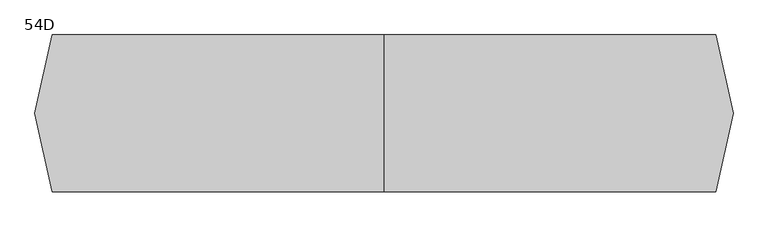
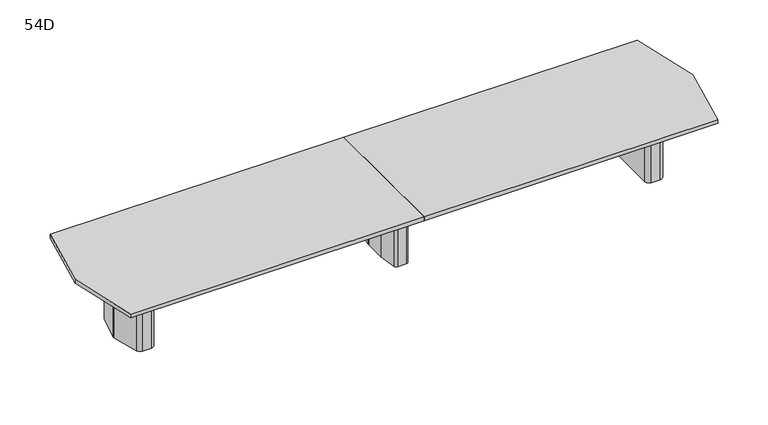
"""IFC4 building model written with IfcOpenShell, lengths in millimetres: furniture geometry, Coalesse_AM_Table_Conference_ETable2_Faceted_20ft_ThreeBase : 54D."""

from ifc_helpers import new_model, si_unit, frame, origin, place, context, project, spatial, polyline, circle_curve, outline, extrude, source, transform, mapped, element, save
from ifc_brep_helpers import plane_surface, cylinder_surface, revolved_surface, advanced_brep


def furniture_54d_db408c70(model_context):
    return source(origin(), model_context, "Body", "SolidModel", [
        advanced_brep(
        [(35.71875, 206.375, 3.175), (10.31875, 231.775, 3.175), (-10.31875, 231.775, 3.175), (-35.71875, 206.375, 3.175), (-35.71875, -206.375, 3.175), (-10.31875, -231.775, 3.175), (10.31875, -231.775, 3.175), (35.71875, -206.375, 3.175), (-61.11875, 206.375, 0.0), (-10.31875, 257.175, 0.0), (10.31875, 257.175, 0.0), (61.11875, 206.375, 0.0), (61.11875, -206.375, 0.0), (10.31875, -257.175, 0.0), (-10.31875, -257.175, 0.0), (-61.11875, -206.375, 0.0), (-61.11875, -206.375, 3.175), (-61.11875, 206.375, 3.175), (-10.31875, -257.175, 3.175), (10.31875, -257.175, 3.175), (61.11875, -206.375, 3.175), (61.11875, 206.375, 3.175), (10.31875, 257.175, 3.175), (-10.31875, 257.175, 3.175), (-92.6215974, 106.2976848, 698.5), (-92.86875, 102.7629613, 698.5), (-92.86875, -102.7629613, 698.5), (-92.6215974, -106.2976848, 698.5), (-67.7988375, -282.9347235, 698.5), (-42.6459902, -304.8, 698.5), (42.6459902, -304.8, 698.5), (67.7988375, -282.9347235, 698.5), (92.6215974, -106.2976848, 698.5), (92.86875, -102.7629613, 698.5), (92.86875, 102.7629613, 698.5), (92.6215974, 106.2976848, 698.5), (67.7988375, 282.9347235, 698.5), (42.6459902, 304.8, 698.5), (-42.6459902, 304.8, 698.5), (-67.7988375, 282.9347235, 698.5), (10.31875, 231.775, 698.5), (35.71875, 206.375, 698.5), (35.71875, -206.375, 698.5), (10.31875, -231.775, 698.5), (-10.31875, -231.775, 698.5), (-35.71875, -206.375, 698.5), (-35.71875, 206.375, 698.5), (-10.31875, 231.775, 698.5), (-92.6215974, 106.2976848, 3.175), (-67.7988375, 282.9347235, 3.175), (-42.6459902, 304.8, 3.175), (42.6459902, 304.8, 3.175), (67.7988375, 282.9347235, 3.175), (92.6215974, 106.2976848, 3.175), (92.86875, 102.7629613, 3.175), (92.86875, -102.7629613, 3.175), (92.6215974, -106.2976848, 3.175), (67.7988375, -282.9347235, 3.175), (42.6459902, -304.8, 3.175), (-42.6459902, -304.8, 3.175), (-67.7988375, -282.9347235, 3.175), (-92.6215974, -106.2976848, 3.175), (-92.86875, -102.7629613, 3.175), (-92.86875, 102.7629613, 3.175)],
        [
            (0, 1, circle_curve(frame((10.31875, 206.375, 3.175), z_axis=(0.0, 0.0, 1.0), x_axis=(1.0, 0.0, 0.0)), 25.4)),
            (1, 2),
            (2, 3, circle_curve(frame((-10.31875, 206.375, 3.175), z_axis=(0.0, 0.0, 1.0), x_axis=(1.0, 0.0, 0.0)), 25.4)),
            (3, 4),
            (4, 5, circle_curve(frame((-10.31875, -206.375, 3.175), z_axis=(0.0, 0.0, 1.0), x_axis=(1.0, 0.0, 0.0)), 25.4)),
            (5, 6),
            (6, 7, circle_curve(frame((10.31875, -206.375, 3.175), z_axis=(0.0, 0.0, 1.0), x_axis=(1.0, 0.0, 0.0)), 25.4)),
            (7, 0),
            (8, 9, circle_curve(frame((-10.31875, 206.375, 0.0), z_axis=(0.0, 0.0, -1.0), x_axis=(1.0, 0.0, 0.0)), 50.8)),
            (9, 10),
            (10, 11, circle_curve(frame((10.31875, 206.375, 0.0), z_axis=(0.0, 0.0, -1.0), x_axis=(1.0, 0.0, 0.0)), 50.8)),
            (11, 12),
            (12, 13, circle_curve(frame((10.31875, -206.375, 0.0), z_axis=(0.0, 0.0, -1.0), x_axis=(1.0, 0.0, 0.0)), 50.8)),
            (13, 14),
            (14, 15, circle_curve(frame((-10.31875, -206.375, 0.0), z_axis=(0.0, 0.0, -1.0), x_axis=(1.0, 0.0, 0.0)), 50.8)),
            (15, 8),
            (15, 16),
            (16, 17),
            (17, 8),
            (14, 18),
            (18, 16, circle_curve(frame((-10.31875, -206.375, 3.175), z_axis=(0.0, 0.0, -1.0), x_axis=(1.0, 0.0, 0.0)), 50.8)),
            (13, 19),
            (19, 18),
            (12, 20),
            (20, 19, circle_curve(frame((10.31875, -206.375, 3.175), z_axis=(0.0, 0.0, -1.0), x_axis=(1.0, 0.0, 0.0)), 50.8)),
            (11, 21),
            (21, 20),
            (10, 22),
            (22, 21, circle_curve(frame((10.31875, 206.375, 3.175), z_axis=(0.0, 0.0, -1.0), x_axis=(1.0, 0.0, 0.0)), 50.8)),
            (9, 23),
            (23, 22),
            (17, 23, circle_curve(frame((-10.31875, 206.375, 3.175), z_axis=(0.0, 0.0, -1.0), x_axis=(1.0, 0.0, 0.0)), 50.8)),
            (24, 25, circle_curve(frame((-67.46875, 102.7629613, 698.5), z_axis=(0.0, 0.0, 1.0), x_axis=(1.0, 0.0, 0.0)), 25.4)),
            (25, 26),
            (26, 27, circle_curve(frame((-67.46875, -102.7629613, 698.5), z_axis=(0.0, 0.0, 1.0), x_axis=(1.0, 0.0, 0.0)), 25.4)),
            (27, 28),
            (28, 29, circle_curve(frame((-42.6459902, -279.4, 698.5), z_axis=(0.0, 0.0, 1.0), x_axis=(1.0, 0.0, 0.0)), 25.4)),
            (29, 30),
            (30, 31, circle_curve(frame((42.6459902, -279.4, 698.5), z_axis=(0.0, 0.0, 1.0), x_axis=(1.0, 0.0, 0.0)), 25.4)),
            (31, 32),
            (32, 33, circle_curve(frame((67.46875, -102.7629613, 698.5), z_axis=(0.0, 0.0, 1.0), x_axis=(1.0, 0.0, 0.0)), 25.4)),
            (33, 34),
            (34, 35, circle_curve(frame((67.46875, 102.7629613, 698.5), z_axis=(0.0, 0.0, 1.0), x_axis=(1.0, 0.0, 0.0)), 25.4)),
            (35, 36),
            (36, 37, circle_curve(frame((42.6459902, 279.4, 698.5), z_axis=(0.0, 0.0, 1.0), x_axis=(1.0, 0.0, 0.0)), 25.4)),
            (37, 38),
            (38, 39, circle_curve(frame((-42.6459902, 279.4, 698.5), z_axis=(0.0, 0.0, 1.0), x_axis=(1.0, 0.0, 0.0)), 25.4)),
            (39, 24),
            (40, 41, circle_curve(frame((10.31875, 206.375, 698.5), z_axis=(0.0, 0.0, -1.0), x_axis=(1.0, 0.0, 0.0)), 25.4)),
            (41, 42),
            (42, 43, circle_curve(frame((10.31875, -206.375, 698.5), z_axis=(0.0, 0.0, -1.0), x_axis=(1.0, 0.0, 0.0)), 25.4)),
            (43, 44),
            (44, 45, circle_curve(frame((-10.31875, -206.375, 698.5), z_axis=(0.0, 0.0, -1.0), x_axis=(1.0, 0.0, 0.0)), 25.4)),
            (45, 46),
            (46, 47, circle_curve(frame((-10.31875, 206.375, 698.5), z_axis=(0.0, 0.0, -1.0), x_axis=(1.0, 0.0, 0.0)), 25.4)),
            (47, 40),
            (48, 49),
            (49, 50, circle_curve(frame((-42.6459902, 279.4, 3.175), z_axis=(0.0, 0.0, -1.0), x_axis=(1.0, 0.0, 0.0)), 25.4)),
            (50, 51),
            (51, 52, circle_curve(frame((42.6459902, 279.4, 3.175), z_axis=(0.0, 0.0, -1.0), x_axis=(1.0, 0.0, 0.0)), 25.4)),
            (52, 53),
            (53, 54, circle_curve(frame((67.46875, 102.7629613, 3.175), z_axis=(0.0, 0.0, -1.0), x_axis=(1.0, 0.0, 0.0)), 25.4)),
            (54, 55),
            (55, 56, circle_curve(frame((67.46875, -102.7629613, 3.175), z_axis=(0.0, 0.0, -1.0), x_axis=(1.0, 0.0, 0.0)), 25.4)),
            (56, 57),
            (57, 58, circle_curve(frame((42.6459902, -279.4, 3.175), z_axis=(0.0, 0.0, -1.0), x_axis=(1.0, 0.0, 0.0)), 25.4)),
            (58, 59),
            (59, 60, circle_curve(frame((-42.6459902, -279.4, 3.175), z_axis=(0.0, 0.0, -1.0), x_axis=(1.0, 0.0, 0.0)), 25.4)),
            (60, 61),
            (61, 62, circle_curve(frame((-67.46875, -102.7629613, 3.175), z_axis=(0.0, 0.0, -1.0), x_axis=(1.0, 0.0, 0.0)), 25.4)),
            (62, 63),
            (63, 48, circle_curve(frame((-67.46875, 102.7629613, 3.175), z_axis=(0.0, 0.0, -1.0), x_axis=(1.0, 0.0, 0.0)), 25.4)),
            (24, 48),
            (63, 25),
            (62, 26),
            (61, 27),
            (60, 28),
            (59, 29),
            (58, 30),
            (57, 31),
            (56, 32),
            (55, 33),
            (54, 34),
            (53, 35),
            (52, 36),
            (51, 37),
            (50, 38),
            (49, 39),
            (40, 1),
            (0, 41),
            (7, 42),
            (6, 43),
            (5, 44),
            (4, 45),
            (3, 46),
            (2, 47),
        ],
        [
            plane_surface(frame((-61.11875, -206.375, 3.175), z_axis=(0.0, 0.0, 1.0), x_axis=(0.0, -1.0, 0.0))),
            plane_surface(frame((-61.11875, -206.375, 0.0), z_axis=(0.0, 0.0, -1.0), x_axis=(0.0, 1.0, 0.0))),
            plane_surface(frame((-61.11875, 206.375, 3.175), z_axis=(-1.0, 0.0, 0.0), x_axis=(0.0, 0.0, -1.0))),
            cylinder_surface(frame((-10.31875, -206.375, 0.0), z_axis=(0.0, 0.0, 1.0), x_axis=(1.0, 0.0, 0.0)), 50.8),
            plane_surface(frame((-10.31875, -257.175, 3.175), z_axis=(0.0, -1.0, 0.0), x_axis=(0.0, 0.0, -1.0))),
            cylinder_surface(frame((10.31875, -206.375, 0.0), z_axis=(0.0, 0.0, 1.0), x_axis=(1.0, 0.0, 0.0)), 50.8),
            plane_surface(frame((61.11875, -206.375, 3.175), z_axis=(1.0, 0.0, 0.0), x_axis=(0.0, 0.0, -1.0))),
            cylinder_surface(frame((10.31875, 206.375, 0.0), z_axis=(0.0, 0.0, 1.0), x_axis=(1.0, 0.0, 0.0)), 50.8),
            plane_surface(frame((10.31875, 257.175, 3.175), z_axis=(0.0, 1.0, 0.0), x_axis=(0.0, 0.0, -1.0))),
            cylinder_surface(frame((-10.31875, 206.375, 0.0), z_axis=(0.0, 0.0, 1.0), x_axis=(1.0, 0.0, 0.0)), 50.8),
            plane_surface(frame((-42.06875, 102.7629613, 698.5), z_axis=(0.0, 0.0, 1.0), x_axis=(0.0, 1.0, 0.0))),
            plane_surface(frame((-42.06875, 102.7629613, 3.175), z_axis=(0.0, 0.0, -1.0), x_axis=(0.0, -1.0, 0.0))),
            cylinder_surface(frame((-67.46875, 102.7629613, 3.175), z_axis=(0.0, 0.0, 1.0), x_axis=(1.0, 0.0, 0.0)), 25.4),
            plane_surface(frame((-92.86875, 102.7629613, 698.5), z_axis=(-1.0, 0.0, 0.0), x_axis=(0.0, 0.0, -1.0))),
            cylinder_surface(frame((-67.46875, -102.7629613, 3.175), z_axis=(0.0, 0.0, 1.0), x_axis=(1.0, 0.0, 0.0)), 25.4),
            plane_surface(frame((-92.6215974, -106.2976848, 698.5), z_axis=(-0.9902695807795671, -0.13916234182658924, 0.0), x_axis=(0.0, 0.0, -1.0))),
            cylinder_surface(frame((-42.6459902, -279.4, 3.175), z_axis=(0.0, 0.0, 1.0), x_axis=(1.0, 0.0, 0.0)), 25.4),
            plane_surface(frame((-42.6459902, -304.8, 698.5), z_axis=(0.0, -1.0, 0.0), x_axis=(0.0, 0.0, -1.0))),
            cylinder_surface(frame((42.6459902, -279.4, 3.175), z_axis=(0.0, 0.0, 1.0), x_axis=(1.0, 0.0, 0.0)), 25.4),
            plane_surface(frame((67.7988375, -282.9347235, 698.5), z_axis=(0.9902695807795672, -0.13916234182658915, 0.0), x_axis=(0.0, 0.0, -1.0))),
            cylinder_surface(frame((67.46875, -102.7629613, 3.175), z_axis=(0.0, 0.0, 1.0), x_axis=(1.0, 0.0, 0.0)), 25.4),
            plane_surface(frame((92.86875, -102.7629613, 698.5), z_axis=(1.0, 0.0, 0.0), x_axis=(0.0, 0.0, -1.0))),
            cylinder_surface(frame((67.46875, 102.7629613, 3.175), z_axis=(0.0, 0.0, 1.0), x_axis=(1.0, 0.0, 0.0)), 25.4),
            plane_surface(frame((92.6215974, 106.2976848, 698.5), z_axis=(0.9902695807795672, 0.1391623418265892, 0.0), x_axis=(0.0, 0.0, -1.0))),
            cylinder_surface(frame((42.6459902, 279.4, 3.175), z_axis=(0.0, 0.0, 1.0), x_axis=(1.0, 0.0, 0.0)), 25.4),
            plane_surface(frame((42.6459902, 304.8, 698.5), z_axis=(0.0, 1.0, 0.0), x_axis=(0.0, 0.0, -1.0))),
            cylinder_surface(frame((-42.6459902, 279.4, 3.175), z_axis=(0.0, 0.0, 1.0), x_axis=(1.0, 0.0, 0.0)), 25.4),
            plane_surface(frame((-67.7988375, 282.9347235, 698.5), z_axis=(-0.9902695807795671, 0.13916234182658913, 0.0), x_axis=(0.0, 0.0, -1.0))),
            revolved_surface(polyline([(35.71875, 206.375, 3.175), (35.71875, 206.375, 698.5)]), (10.31875, 206.375, 0.0), (0.0, 0.0, -1.0)),
            plane_surface(frame((35.71875, 206.375, 698.5), z_axis=(-1.0, 0.0, 0.0), x_axis=(0.0, 0.0, -1.0))),
            revolved_surface(polyline([(35.71875, -206.375, 3.175), (35.71875, -206.375, 698.5)]), (10.31875, -206.375, 0.0), (0.0, 0.0, -1.0)),
            plane_surface(frame((10.31875, -231.775, 698.5), z_axis=(0.0, 1.0, 0.0), x_axis=(0.0, 0.0, -1.0))),
            revolved_surface(polyline([(15.081249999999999, -206.375, 3.175), (15.081249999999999, -206.375, 698.5)]), (-10.31875, -206.375, 0.0), (0.0, 0.0, -1.0)),
            plane_surface(frame((-35.71875, -206.375, 698.5), z_axis=(1.0, 0.0, 0.0), x_axis=(0.0, 0.0, -1.0))),
            revolved_surface(polyline([(15.081249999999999, 206.375, 3.175), (15.081249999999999, 206.375, 698.5)]), (-10.31875, 206.375, 0.0), (0.0, 0.0, -1.0)),
            plane_surface(frame((-10.31875, 231.775, 698.5), z_axis=(0.0, -1.0, 0.0), x_axis=(0.0, 0.0, -1.0))),
        ],
        [
            (0, [[1, 2, 3, 4, 5, 6, 7, 8]]),
            (1, [[9, 10, 11, 12, 13, 14, 15, 16]]),
            (2, [[-16, 17, 18, 19]]),
            (3, [[-15, 20, 21, -17]]),
            (4, [[-14, 22, 23, -20]]),
            (5, [[-13, 24, 25, -22]]),
            (6, [[-12, 26, 27, -24]]),
            (7, [[-11, 28, 29, -26]]),
            (8, [[-10, 30, 31, -28]]),
            (9, [[-9, -19, 32, -30]]),
            (10, [[33, 34, 35, 36, 37, 38, 39, 40, 41, 42, 43, 44, 45, 46, 47, 48], [49, 50, 51, 52, 53, 54, 55, 56]]),
            (11, [[57, 58, 59, 60, 61, 62, 63, 64, 65, 66, 67, 68, 69, 70, 71, 72], [-18, -21, -23, -25, -27, -29, -31, -32]]),
            (12, [[-33, 73, -72, 74]]),
            (13, [[-34, -74, -71, 75]]),
            (14, [[-35, -75, -70, 76]]),
            (15, [[-36, -76, -69, 77]]),
            (16, [[-37, -77, -68, 78]]),
            (17, [[-38, -78, -67, 79]]),
            (18, [[-39, -79, -66, 80]]),
            (19, [[-40, -80, -65, 81]]),
            (20, [[-41, -81, -64, 82]]),
            (21, [[-42, -82, -63, 83]]),
            (22, [[-43, -83, -62, 84]]),
            (23, [[-44, -84, -61, 85]]),
            (24, [[-45, -85, -60, 86]]),
            (25, [[-46, -86, -59, 87]]),
            (26, [[-47, -87, -58, 88]]),
            (27, [[-48, -88, -57, -73]]),
            (28, [[-49, 89, -1, 90]]),
            (29, [[-50, -90, -8, 91]]),
            (30, [[-51, -91, -7, 92]]),
            (31, [[-52, -92, -6, 93]]),
            (32, [[-53, -93, -5, 94]]),
            (33, [[-54, -94, -4, 95]]),
            (34, [[-55, -95, -3, 96]]),
            (35, [[-56, -96, -2, -89]]),
        ],
    ),
        advanced_brep(
        [(2589.424548, 274.2093613, 698.5), (2549.5579246, 304.8, 698.5), (2460.625, 304.8, 698.5), (2419.35, 263.525, 698.5), (2419.35, -263.525, 698.5), (2460.625, -304.8, 698.5), (2549.5579246, -304.8, 698.5), (2589.424548, -274.2093613, 698.5), (2660.0503901, -10.6333708, 698.5), (2660.0503901, 10.6333708, 698.5), (2457.45, -206.375, 698.5), (2457.45, 206.375, 698.5), (2482.85, 231.775, 698.5), (2541.8608422, 231.775, 698.5), (2566.395338, 212.9490792, 698.5), (2605.0875, 68.54974, 698.5), (2605.0875, -68.54974, 698.5), (2566.395338, -212.9490792, 698.5), (2541.8608422, -231.775, 698.5), (2482.85, -231.775, 698.5), (2589.424548, 274.2093613, 3.175), (2660.0503901, 10.6333708, 3.175), (2660.0503901, -10.6333708, 3.175), (2589.424548, -274.2093613, 3.175), (2549.5579246, -304.8, 3.175), (2460.625, -304.8, 3.175), (2419.35, -263.525, 3.175), (2419.35, 263.525, 3.175), (2460.625, 304.8, 3.175), (2549.5579246, 304.8, 3.175), (2578.6625859, 216.2361187, 3.175), (2541.8608422, 244.475, 3.175), (2482.85, 244.475, 3.175), (2444.75, 206.375, 3.175), (2444.75, -206.375, 3.175), (2482.85, -244.475, 3.175), (2541.8608422, -244.475, 3.175), (2578.6625859, -216.2361187, 3.175), (2617.7875, -70.2217466, 3.175), (2617.7875, 70.2217466, 3.175), (2482.85, -231.775, 3.175), (2457.45, -206.375, 3.175), (2541.8608422, -231.775, 3.175), (2566.395338, -212.9490792, 3.175), (2605.0875, -68.54974, 3.175), (2605.0875, 68.54974, 3.175), (2566.395338, 212.9490792, 3.175), (2541.8608422, 231.775, 3.175), (2482.85, 231.775, 3.175), (2457.45, 206.375, 3.175), (2578.6625859, 216.2361187, 0.0), (2617.7875, 70.2217466, 0.0), (2617.7875, -70.2217466, 0.0), (2578.6625859, -216.2361187, 0.0), (2541.8608422, -244.475, 0.0), (2482.85, -244.475, 0.0), (2444.75, -206.375, 0.0), (2444.75, 206.375, 0.0), (2482.85, 244.475, 0.0), (2541.8608422, 244.475, 0.0)],
        [
            (0, 1, circle_curve(frame((2549.5579246, 263.5270004, 698.5), z_axis=(0.0, 0.0, 1.0), x_axis=(-1.0, 0.0, 0.0)), 41.2729996)),
            (1, 2),
            (2, 3, circle_curve(frame((2460.625, 263.525, 698.5), z_axis=(0.0, 0.0, 1.0), x_axis=(-1.0, 0.0, 0.0)), 41.275)),
            (3, 4),
            (4, 5, circle_curve(frame((2460.625, -263.525, 698.5), z_axis=(0.0, 0.0, 1.0), x_axis=(-1.0, 0.0, 0.0)), 41.275)),
            (5, 6),
            (6, 7, circle_curve(frame((2549.5579246, -263.5270004, 698.5), z_axis=(0.0, 0.0, 1.0), x_axis=(-1.0, 0.0, 0.0)), 41.2729996)),
            (7, 8),
            (8, 9, circle_curve(frame((2620.3665979, 0.0, 698.5), z_axis=(0.0, 0.0, 1.0), x_axis=(-1.0, 0.0, 0.0)), 41.0837187)),
            (9, 0),
            (10, 11),
            (11, 12, circle_curve(frame((2482.85, 206.375, 698.5), z_axis=(0.0, 0.0, -1.0), x_axis=(-1.0, 0.0, 0.0)), 25.4)),
            (12, 13),
            (13, 14, circle_curve(frame((2541.8608422, 206.375, 698.5), z_axis=(0.0, 0.0, -1.0), x_axis=(-1.0, 0.0, 0.0)), 25.4)),
            (14, 15),
            (15, 16),
            (16, 17),
            (17, 18, circle_curve(frame((2541.8608422, -206.375, 698.5), z_axis=(0.0, 0.0, -1.0), x_axis=(-1.0, 0.0, 0.0)), 25.4)),
            (18, 19),
            (19, 10, circle_curve(frame((2482.85, -206.375, 698.5), z_axis=(0.0, 0.0, -1.0), x_axis=(-1.0, 0.0, 0.0)), 25.4)),
            (20, 21),
            (21, 22, circle_curve(frame((2620.3665979, 0.0, 3.175), z_axis=(0.0, 0.0, -1.0), x_axis=(-1.0, 0.0, 0.0)), 41.0837187)),
            (22, 23),
            (23, 24, circle_curve(frame((2549.5579246, -263.5270004, 3.175), z_axis=(0.0, 0.0, -1.0), x_axis=(-1.0, 0.0, 0.0)), 41.2729996)),
            (24, 25),
            (25, 26, circle_curve(frame((2460.625, -263.525, 3.175), z_axis=(0.0, 0.0, -1.0), x_axis=(-1.0, 0.0, 0.0)), 41.275)),
            (26, 27),
            (27, 28, circle_curve(frame((2460.625, 263.525, 3.175), z_axis=(0.0, 0.0, -1.0), x_axis=(-1.0, 0.0, 0.0)), 41.275)),
            (28, 29),
            (29, 20, circle_curve(frame((2549.5579246, 263.5270004, 3.175), z_axis=(0.0, 0.0, -1.0), x_axis=(-1.0, 0.0, 0.0)), 41.2729996)),
            (30, 31, circle_curve(frame((2541.8608422, 206.375, 3.175), z_axis=(0.0, 0.0, 1.0), x_axis=(-1.0, 0.0, 0.0)), 38.1)),
            (31, 32),
            (32, 33, circle_curve(frame((2482.85, 206.375, 3.175), z_axis=(0.0, 0.0, 1.0), x_axis=(-1.0, 0.0, 0.0)), 38.1)),
            (33, 34),
            (34, 35, circle_curve(frame((2482.85, -206.375, 3.175), z_axis=(0.0, 0.0, 1.0), x_axis=(-1.0, 0.0, 0.0)), 38.1)),
            (35, 36),
            (36, 37, circle_curve(frame((2541.8608422, -206.375, 3.175), z_axis=(0.0, 0.0, 1.0), x_axis=(-1.0, 0.0, 0.0)), 38.1)),
            (37, 38),
            (38, 39),
            (39, 30),
            (9, 21),
            (20, 0),
            (8, 22),
            (7, 23),
            (6, 24),
            (5, 25),
            (4, 26),
            (3, 27),
            (2, 28),
            (1, 29),
            (19, 40),
            (40, 41, circle_curve(frame((2482.85, -206.375, 3.175), z_axis=(0.0, 0.0, -1.0), x_axis=(-1.0, 0.0, 0.0)), 25.4)),
            (41, 10),
            (18, 42),
            (42, 40),
            (17, 43),
            (43, 42, circle_curve(frame((2541.8608422, -206.375, 3.175), z_axis=(0.0, 0.0, -1.0), x_axis=(-1.0, 0.0, 0.0)), 25.4)),
            (16, 44),
            (44, 43),
            (15, 45),
            (45, 44),
            (14, 46),
            (46, 45),
            (13, 47),
            (47, 46, circle_curve(frame((2541.8608422, 206.375, 3.175), z_axis=(0.0, 0.0, -1.0), x_axis=(-1.0, 0.0, 0.0)), 25.4)),
            (12, 48),
            (48, 47),
            (11, 49),
            (49, 48, circle_curve(frame((2482.85, 206.375, 3.175), z_axis=(0.0, 0.0, -1.0), x_axis=(-1.0, 0.0, 0.0)), 25.4)),
            (41, 49),
            (50, 51),
            (51, 52),
            (52, 53),
            (53, 54, circle_curve(frame((2541.8608422, -206.375, 0.0), z_axis=(0.0, 0.0, -1.0), x_axis=(-1.0, 0.0, 0.0)), 38.1)),
            (54, 55),
            (55, 56, circle_curve(frame((2482.85, -206.375, 0.0), z_axis=(0.0, 0.0, -1.0), x_axis=(-1.0, 0.0, 0.0)), 38.1)),
            (56, 57),
            (57, 58, circle_curve(frame((2482.85, 206.375, 0.0), z_axis=(0.0, 0.0, -1.0), x_axis=(-1.0, 0.0, 0.0)), 38.1)),
            (58, 59),
            (59, 50, circle_curve(frame((2541.8608422, 206.375, 0.0), z_axis=(0.0, 0.0, -1.0), x_axis=(-1.0, 0.0, 0.0)), 38.1)),
            (50, 30),
            (39, 51),
            (38, 52),
            (37, 53),
            (36, 54),
            (35, 55),
            (34, 56),
            (33, 57),
            (32, 58),
            (31, 59),
        ],
        [
            plane_surface(frame((2660.0374275, 10.6817473, 698.5), z_axis=(0.0, 0.0, 1.0000000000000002), x_axis=(0.25882201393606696, -0.9659250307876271, 0.0))),
            plane_surface(frame((2660.0374275, 10.6817473, 3.175), z_axis=(0.0, 0.0, -1.0000000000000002), x_axis=(-0.25882201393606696, 0.9659250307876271, 0.0))),
            plane_surface(frame((2589.424548, 274.2093613, 698.5), z_axis=(0.9659250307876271, 0.25882201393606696, 0.0), x_axis=(0.0, 0.0, -1.0))),
            cylinder_surface(frame((2620.3665979, 0.0, 3.175), z_axis=(0.0, 0.0, 1.0), x_axis=(-1.0, 0.0, 0.0)), 41.0837187),
            plane_surface(frame((2660.0503901, -10.6333708, 698.5), z_axis=(0.9659250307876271, -0.2588220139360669, 0.0), x_axis=(0.0, 0.0, -1.0))),
            cylinder_surface(frame((2549.5579246, -263.5270004, 3.175), z_axis=(0.0, 0.0, 1.0), x_axis=(-1.0, 0.0, 0.0)), 41.2729996),
            plane_surface(frame((2549.5579246, -304.8, 698.5), z_axis=(0.0, -1.0, 0.0), x_axis=(0.0, 0.0, -1.0))),
            cylinder_surface(frame((2460.625, -263.525, 3.175), z_axis=(0.0, 0.0, 1.0), x_axis=(-1.0, 0.0, 0.0)), 41.275),
            plane_surface(frame((2419.35, -263.525, 698.5), z_axis=(-1.0, 0.0, 0.0), x_axis=(0.0, 0.0, -1.0))),
            cylinder_surface(frame((2460.625, 263.525, 3.175), z_axis=(0.0, 0.0, 1.0), x_axis=(-1.0, 0.0, 0.0)), 41.275),
            plane_surface(frame((2460.625, 304.8, 698.5), z_axis=(0.0, 1.0, 0.0), x_axis=(0.0, 0.0, -1.0))),
            cylinder_surface(frame((2549.5579246, 263.5270004, 3.175), z_axis=(0.0, 0.0, 1.0), x_axis=(-1.0, 0.0, 0.0)), 41.2729996),
            revolved_surface(polyline([(2457.45, -206.375, 3.175), (2457.45, -206.375, 698.5)]), (2482.85, -206.375, 0.0), (0.0, 0.0, -1.0)),
            plane_surface(frame((2482.85, -231.775, 698.5), z_axis=(0.0, 1.0, 0.0), x_axis=(0.0, 0.0, -1.0))),
            revolved_surface(polyline([(2516.4608422, -206.375, 3.175), (2516.4608422, -206.375, 698.5)]), (2541.8608422, -206.375, 0.0), (0.0, 0.0, -1.0)),
            plane_surface(frame((2566.395338, -212.9490792, 698.5), z_axis=(-0.9659250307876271, 0.2588220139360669, 0.0), x_axis=(0.0, 0.0, -1.0))),
            plane_surface(frame((2605.0875, -68.54974, 698.5), z_axis=(-1.0, 0.0, 0.0), x_axis=(0.0, 0.0, -1.0))),
            plane_surface(frame((2605.0875, 68.54974, 698.5), z_axis=(-0.9659250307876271, -0.25882201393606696, 0.0), x_axis=(0.0, 0.0, -1.0))),
            revolved_surface(polyline([(2516.4608422, 206.375, 3.175), (2516.4608422, 206.375, 698.5)]), (2541.8608422, 206.375, 0.0), (0.0, 0.0, -1.0)),
            plane_surface(frame((2541.8608422, 231.775, 698.5), z_axis=(0.0, -1.0, 0.0), x_axis=(0.0, 0.0, -1.0))),
            revolved_surface(polyline([(2457.45, 206.375, 3.175), (2457.45, 206.375, 698.5)]), (2482.85, 206.375, 0.0), (0.0, 0.0, -1.0)),
            plane_surface(frame((2457.45, 206.375, 698.5), z_axis=(1.0, 0.0, 0.0), x_axis=(0.0, 0.0, -1.0))),
            plane_surface(frame((2617.3547479, 71.8367796, 3.175), z_axis=(0.0, 0.0, 1.0), x_axis=(0.25882201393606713, -0.965925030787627, 0.0))),
            plane_surface(frame((2617.3547479, 71.8367796, 0.0), z_axis=(0.0, 0.0, -1.0), x_axis=(-0.25882201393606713, 0.965925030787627, 0.0))),
            plane_surface(frame((2578.6625859, 216.2361187, 3.175), z_axis=(0.965925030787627, 0.25882201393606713, 0.0), x_axis=(0.0, 0.0, -1.0))),
            plane_surface(frame((2617.7875, 70.2217466, 3.175), z_axis=(1.0, 0.0, 0.0), x_axis=(0.0, 0.0, -1.0))),
            plane_surface(frame((2617.7875, -70.2217466, 3.175), z_axis=(0.9659250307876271, -0.2588220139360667, 0.0), x_axis=(0.0, 0.0, -1.0))),
            cylinder_surface(frame((2541.8608422, -206.375, 0.0), z_axis=(0.0, 0.0, 1.0), x_axis=(-1.0, 0.0, 0.0)), 38.1),
            plane_surface(frame((2541.8608422, -244.475, 3.175), z_axis=(0.0, -1.0, 0.0), x_axis=(0.0, 0.0, -1.0))),
            cylinder_surface(frame((2482.85, -206.375, 0.0), z_axis=(0.0, 0.0, 1.0), x_axis=(-1.0, 0.0, 0.0)), 38.1),
            plane_surface(frame((2444.75, -206.375, 3.175), z_axis=(-1.0, 0.0, 0.0), x_axis=(0.0, 0.0, -1.0))),
            cylinder_surface(frame((2482.85, 206.375, 0.0), z_axis=(0.0, 0.0, 1.0), x_axis=(-1.0, 0.0, 0.0)), 38.1),
            plane_surface(frame((2482.85, 244.475, 3.175), z_axis=(0.0, 1.0, 0.0), x_axis=(0.0, 0.0, -1.0))),
            cylinder_surface(frame((2541.8608422, 206.375, 0.0), z_axis=(0.0, 0.0, 1.0), x_axis=(-1.0, 0.0, 0.0)), 38.1),
        ],
        [
            (0, [[1, 2, 3, 4, 5, 6, 7, 8, 9, 10], [11, 12, 13, 14, 15, 16, 17, 18, 19, 20]]),
            (1, [[21, 22, 23, 24, 25, 26, 27, 28, 29, 30], [31, 32, 33, 34, 35, 36, 37, 38, 39, 40]]),
            (2, [[41, -21, 42, -10]]),
            (3, [[43, -22, -41, -9]]),
            (4, [[44, -23, -43, -8]]),
            (5, [[45, -24, -44, -7]]),
            (6, [[46, -25, -45, -6]]),
            (7, [[47, -26, -46, -5]]),
            (8, [[48, -27, -47, -4]]),
            (9, [[49, -28, -48, -3]]),
            (10, [[50, -29, -49, -2]]),
            (11, [[-42, -30, -50, -1]]),
            (12, [[51, 52, 53, -20]]),
            (13, [[54, 55, -51, -19]]),
            (14, [[56, 57, -54, -18]]),
            (15, [[58, 59, -56, -17]]),
            (16, [[60, 61, -58, -16]]),
            (17, [[62, 63, -60, -15]]),
            (18, [[64, 65, -62, -14]]),
            (19, [[66, 67, -64, -13]]),
            (20, [[68, 69, -66, -12]]),
            (21, [[-53, 70, -68, -11]]),
            (22, [[-55, -57, -59, -61, -63, -65, -67, -69, -70, -52]]),
            (23, [[71, 72, 73, 74, 75, 76, 77, 78, 79, 80]]),
            (24, [[81, -40, 82, -71]]),
            (25, [[-82, -39, 83, -72]]),
            (26, [[-83, -38, 84, -73]]),
            (27, [[-84, -37, 85, -74]]),
            (28, [[-85, -36, 86, -75]]),
            (29, [[-86, -35, 87, -76]]),
            (30, [[-87, -34, 88, -77]]),
            (31, [[-88, -33, 89, -78]]),
            (32, [[-89, -32, 90, -79]]),
            (33, [[-90, -31, -81, -80]]),
        ],
    ),
        advanced_brep(
        [(-2600.537048, 274.2093613, 698.5), (-2671.1628901, 10.6333708, 698.5), (-2671.1628901, -10.6333708, 698.5), (-2600.537048, -274.2093613, 698.5), (-2560.6704246, -304.8, 698.5), (-2471.7375, -304.8, 698.5), (-2430.4625, -263.525, 698.5), (-2430.4625, 263.525, 698.5), (-2471.7375, 304.8, 698.5), (-2560.6704246, 304.8, 698.5), (-2468.5625, -206.375, 698.5), (-2493.9625, -231.775, 698.5), (-2552.9733422, -231.775, 698.5), (-2577.507838, -212.9490792, 698.5), (-2616.2, -68.54974, 698.5), (-2616.2, 68.54974, 698.5), (-2577.507838, 212.9490792, 698.5), (-2552.9733422, 231.775, 698.5), (-2493.9625, 231.775, 698.5), (-2468.5625, 206.375, 698.5), (-2600.537048, 274.2093613, 3.175), (-2560.6704246, 304.8, 3.175), (-2471.7375, 304.8, 3.175), (-2430.4625, 263.525, 3.175), (-2430.4625, -263.525, 3.175), (-2471.7375, -304.8, 3.175), (-2560.6704246, -304.8, 3.175), (-2600.537048, -274.2093613, 3.175), (-2671.1628901, -10.6333708, 3.175), (-2671.1628901, 10.6333708, 3.175), (-2589.7750859, 216.2361187, 3.175), (-2628.9, 70.2217466, 3.175), (-2628.9, -70.2217466, 3.175), (-2589.7750859, -216.2361187, 3.175), (-2552.9733422, -244.475, 3.175), (-2493.9625, -244.475, 3.175), (-2455.8625, -206.375, 3.175), (-2455.8625, 206.375, 3.175), (-2493.9625, 244.475, 3.175), (-2552.9733422, 244.475, 3.175), (-2468.5625, -206.375, 3.175), (-2493.9625, -231.775, 3.175), (-2552.9733422, -231.775, 3.175), (-2577.507838, -212.9490792, 3.175), (-2616.2, -68.54974, 3.175), (-2616.2, 68.54974, 3.175), (-2577.507838, 212.9490792, 3.175), (-2552.9733422, 231.775, 3.175), (-2493.9625, 231.775, 3.175), (-2468.5625, 206.375, 3.175), (-2589.7750859, 216.2361187, 0.0), (-2552.9733422, 244.475, 0.0), (-2493.9625, 244.475, 0.0), (-2455.8625, 206.375, 0.0), (-2455.8625, -206.375, 0.0), (-2493.9625, -244.475, 0.0), (-2552.9733422, -244.475, 0.0), (-2589.7750859, -216.2361187, 0.0), (-2628.9, -70.2217466, 0.0), (-2628.9, 70.2217466, 0.0)],
        [
            (0, 1),
            (1, 2, circle_curve(frame((-2631.4790979, 0.0, 698.5), z_axis=(0.0, 0.0, 1.0), x_axis=(1.0, 0.0, 0.0)), 41.0837187)),
            (2, 3),
            (3, 4, circle_curve(frame((-2560.6704246, -263.5270004, 698.5), z_axis=(0.0, 0.0, 1.0), x_axis=(1.0, 0.0, 0.0)), 41.2729996)),
            (4, 5),
            (5, 6, circle_curve(frame((-2471.7375, -263.525, 698.5), z_axis=(0.0, 0.0, 1.0), x_axis=(1.0, 0.0, 0.0)), 41.275)),
            (6, 7),
            (7, 8, circle_curve(frame((-2471.7375, 263.525, 698.5), z_axis=(0.0, 0.0, 1.0), x_axis=(1.0, 0.0, 0.0)), 41.275)),
            (8, 9),
            (9, 0, circle_curve(frame((-2560.6704246, 263.5270004, 698.5), z_axis=(0.0, 0.0, 1.0), x_axis=(1.0, 0.0, 0.0)), 41.2729996)),
            (10, 11, circle_curve(frame((-2493.9625, -206.375, 698.5), z_axis=(0.0, 0.0, -1.0), x_axis=(1.0, 0.0, 0.0)), 25.4)),
            (11, 12),
            (12, 13, circle_curve(frame((-2552.9733422, -206.375, 698.5), z_axis=(0.0, 0.0, -1.0), x_axis=(1.0, 0.0, 0.0)), 25.4)),
            (13, 14),
            (14, 15),
            (15, 16),
            (16, 17, circle_curve(frame((-2552.9733422, 206.375, 698.5), z_axis=(0.0, 0.0, -1.0), x_axis=(1.0, 0.0, 0.0)), 25.4)),
            (17, 18),
            (18, 19, circle_curve(frame((-2493.9625, 206.375, 698.5), z_axis=(0.0, 0.0, -1.0), x_axis=(1.0, 0.0, 0.0)), 25.4)),
            (19, 10),
            (20, 21, circle_curve(frame((-2560.6704246, 263.5270004, 3.175), z_axis=(0.0, 0.0, -1.0), x_axis=(1.0, 0.0, 0.0)), 41.2729996)),
            (21, 22),
            (22, 23, circle_curve(frame((-2471.7375, 263.525, 3.175), z_axis=(0.0, 0.0, -1.0), x_axis=(1.0, 0.0, 0.0)), 41.275)),
            (23, 24),
            (24, 25, circle_curve(frame((-2471.7375, -263.525, 3.175), z_axis=(0.0, 0.0, -1.0), x_axis=(1.0, 0.0, 0.0)), 41.275)),
            (25, 26),
            (26, 27, circle_curve(frame((-2560.6704246, -263.5270004, 3.175), z_axis=(0.0, 0.0, -1.0), x_axis=(1.0, 0.0, 0.0)), 41.2729996)),
            (27, 28),
            (28, 29, circle_curve(frame((-2631.4790979, 0.0, 3.175), z_axis=(0.0, 0.0, -1.0), x_axis=(1.0, 0.0, 0.0)), 41.0837187)),
            (29, 20),
            (30, 31),
            (31, 32),
            (32, 33),
            (33, 34, circle_curve(frame((-2552.9733422, -206.375, 3.175), z_axis=(0.0, 0.0, 1.0), x_axis=(1.0, 0.0, 0.0)), 38.1)),
            (34, 35),
            (35, 36, circle_curve(frame((-2493.9625, -206.375, 3.175), z_axis=(0.0, 0.0, 1.0), x_axis=(1.0, 0.0, 0.0)), 38.1)),
            (36, 37),
            (37, 38, circle_curve(frame((-2493.9625, 206.375, 3.175), z_axis=(0.0, 0.0, 1.0), x_axis=(1.0, 0.0, 0.0)), 38.1)),
            (38, 39),
            (39, 30, circle_curve(frame((-2552.9733422, 206.375, 3.175), z_axis=(0.0, 0.0, 1.0), x_axis=(1.0, 0.0, 0.0)), 38.1)),
            (0, 20),
            (29, 1),
            (28, 2),
            (27, 3),
            (26, 4),
            (25, 5),
            (24, 6),
            (23, 7),
            (22, 8),
            (21, 9),
            (10, 40),
            (40, 41, circle_curve(frame((-2493.9625, -206.375, 3.175), z_axis=(0.0, 0.0, -1.0), x_axis=(1.0, 0.0, 0.0)), 25.4)),
            (41, 11),
            (41, 42),
            (42, 12),
            (42, 43, circle_curve(frame((-2552.9733422, -206.375, 3.175), z_axis=(0.0, 0.0, -1.0), x_axis=(1.0, 0.0, 0.0)), 25.4)),
            (43, 13),
            (43, 44),
            (44, 14),
            (44, 45),
            (45, 15),
            (45, 46),
            (46, 16),
            (46, 47, circle_curve(frame((-2552.9733422, 206.375, 3.175), z_axis=(0.0, 0.0, -1.0), x_axis=(1.0, 0.0, 0.0)), 25.4)),
            (47, 17),
            (47, 48),
            (48, 18),
            (48, 49, circle_curve(frame((-2493.9625, 206.375, 3.175), z_axis=(0.0, 0.0, -1.0), x_axis=(1.0, 0.0, 0.0)), 25.4)),
            (49, 19),
            (49, 40),
            (50, 51, circle_curve(frame((-2552.9733422, 206.375, 0.0), z_axis=(0.0, 0.0, -1.0), x_axis=(1.0, 0.0, 0.0)), 38.1)),
            (51, 52),
            (52, 53, circle_curve(frame((-2493.9625, 206.375, 0.0), z_axis=(0.0, 0.0, -1.0), x_axis=(1.0, 0.0, 0.0)), 38.1)),
            (53, 54),
            (54, 55, circle_curve(frame((-2493.9625, -206.375, 0.0), z_axis=(0.0, 0.0, -1.0), x_axis=(1.0, 0.0, 0.0)), 38.1)),
            (55, 56),
            (56, 57, circle_curve(frame((-2552.9733422, -206.375, 0.0), z_axis=(0.0, 0.0, -1.0), x_axis=(1.0, 0.0, 0.0)), 38.1)),
            (57, 58),
            (58, 59),
            (59, 50),
            (59, 31),
            (30, 50),
            (58, 32),
            (57, 33),
            (56, 34),
            (55, 35),
            (54, 36),
            (53, 37),
            (52, 38),
            (51, 39),
        ],
        [
            plane_surface(frame((-2671.1499275, 10.6817473, 698.5), z_axis=(0.0, 0.0, 1.0000000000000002), x_axis=(-0.25882201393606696, -0.9659250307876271, 0.0))),
            plane_surface(frame((-2671.1499275, 10.6817473, 3.175), z_axis=(0.0, 0.0, -1.0000000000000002), x_axis=(0.25882201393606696, 0.9659250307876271, 0.0))),
            plane_surface(frame((-2600.537048, 274.2093613, 698.5), z_axis=(-0.9659250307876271, 0.25882201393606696, 0.0), x_axis=(0.0, 0.0, -1.0))),
            cylinder_surface(frame((-2631.4790979, 0.0, 3.175), z_axis=(0.0, 0.0, 1.0), x_axis=(1.0, 0.0, 0.0)), 41.0837187),
            plane_surface(frame((-2671.1628901, -10.6333708, 698.5), z_axis=(-0.9659250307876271, -0.2588220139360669, 0.0), x_axis=(0.0, 0.0, -1.0))),
            cylinder_surface(frame((-2560.6704246, -263.5270004, 3.175), z_axis=(0.0, 0.0, 1.0), x_axis=(1.0, 0.0, 0.0)), 41.2729996),
            plane_surface(frame((-2560.6704246, -304.8, 698.5), z_axis=(0.0, -1.0, 0.0), x_axis=(0.0, 0.0, -1.0))),
            cylinder_surface(frame((-2471.7375, -263.525, 3.175), z_axis=(0.0, 0.0, 1.0), x_axis=(1.0, 0.0, 0.0)), 41.275),
            plane_surface(frame((-2430.4625, -263.525, 698.5), z_axis=(1.0, 0.0, 0.0), x_axis=(0.0, 0.0, -1.0))),
            cylinder_surface(frame((-2471.7375, 263.525, 3.175), z_axis=(0.0, 0.0, 1.0), x_axis=(1.0, 0.0, 0.0)), 41.275),
            plane_surface(frame((-2471.7375, 304.8, 698.5), z_axis=(0.0, 1.0, 0.0), x_axis=(0.0, 0.0, -1.0))),
            cylinder_surface(frame((-2560.6704246, 263.5270004, 3.175), z_axis=(0.0, 0.0, 1.0), x_axis=(1.0, 0.0, 0.0)), 41.2729996),
            revolved_surface(polyline([(-2468.5625, -206.375, 3.175), (-2468.5625, -206.375, 698.5)]), (-2493.9625, -206.375, 0.0), (0.0, 0.0, -1.0)),
            plane_surface(frame((-2493.9625, -231.775, 698.5), z_axis=(0.0, 1.0, 0.0), x_axis=(0.0, 0.0, -1.0))),
            revolved_surface(polyline([(-2527.5733422, -206.375, 3.175), (-2527.5733422, -206.375, 698.5)]), (-2552.9733422, -206.375, 0.0), (0.0, 0.0, -1.0)),
            plane_surface(frame((-2577.507838, -212.9490792, 698.5), z_axis=(0.9659250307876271, 0.2588220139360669, 0.0), x_axis=(0.0, 0.0, -1.0))),
            plane_surface(frame((-2616.2, -68.54974, 698.5), z_axis=(1.0, 0.0, 0.0), x_axis=(0.0, 0.0, -1.0))),
            plane_surface(frame((-2616.2, 68.54974, 698.5), z_axis=(0.9659250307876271, -0.25882201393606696, 0.0), x_axis=(0.0, 0.0, -1.0))),
            revolved_surface(polyline([(-2527.5733422, 206.375, 3.175), (-2527.5733422, 206.375, 698.5)]), (-2552.9733422, 206.375, 0.0), (0.0, 0.0, -1.0)),
            plane_surface(frame((-2552.9733422, 231.775, 698.5), z_axis=(0.0, -1.0, 0.0), x_axis=(0.0, 0.0, -1.0))),
            revolved_surface(polyline([(-2468.5625, 206.375, 3.175), (-2468.5625, 206.375, 698.5)]), (-2493.9625, 206.375, 0.0), (0.0, 0.0, -1.0)),
            plane_surface(frame((-2468.5625, 206.375, 698.5), z_axis=(-1.0, 0.0, 0.0), x_axis=(0.0, 0.0, -1.0))),
            plane_surface(frame((-2628.4672479, 71.8367796, 3.175), z_axis=(0.0, 0.0, 1.0), x_axis=(-0.25882201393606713, -0.965925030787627, 0.0))),
            plane_surface(frame((-2628.4672479, 71.8367796, 0.0), z_axis=(0.0, 0.0, -1.0), x_axis=(0.25882201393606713, 0.965925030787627, 0.0))),
            plane_surface(frame((-2589.7750859, 216.2361187, 3.175), z_axis=(-0.965925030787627, 0.25882201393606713, 0.0), x_axis=(0.0, 0.0, -1.0))),
            plane_surface(frame((-2628.9, 70.2217466, 3.175), z_axis=(-1.0, 0.0, 0.0), x_axis=(0.0, 0.0, -1.0))),
            plane_surface(frame((-2628.9, -70.2217466, 3.175), z_axis=(-0.9659250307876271, -0.2588220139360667, 0.0), x_axis=(0.0, 0.0, -1.0))),
            cylinder_surface(frame((-2552.9733422, -206.375, 0.0), z_axis=(0.0, 0.0, 1.0), x_axis=(1.0, 0.0, 0.0)), 38.1),
            plane_surface(frame((-2552.9733422, -244.475, 3.175), z_axis=(0.0, -1.0, 0.0), x_axis=(0.0, 0.0, -1.0))),
            cylinder_surface(frame((-2493.9625, -206.375, 0.0), z_axis=(0.0, 0.0, 1.0), x_axis=(1.0, 0.0, 0.0)), 38.1),
            plane_surface(frame((-2455.8625, -206.375, 3.175), z_axis=(1.0, 0.0, 0.0), x_axis=(0.0, 0.0, -1.0))),
            cylinder_surface(frame((-2493.9625, 206.375, 0.0), z_axis=(0.0, 0.0, 1.0), x_axis=(1.0, 0.0, 0.0)), 38.1),
            plane_surface(frame((-2493.9625, 244.475, 3.175), z_axis=(0.0, 1.0, 0.0), x_axis=(0.0, 0.0, -1.0))),
            cylinder_surface(frame((-2552.9733422, 206.375, 0.0), z_axis=(0.0, 0.0, 1.0), x_axis=(1.0, 0.0, 0.0)), 38.1),
        ],
        [
            (0, [[1, 2, 3, 4, 5, 6, 7, 8, 9, 10], [11, 12, 13, 14, 15, 16, 17, 18, 19, 20]]),
            (1, [[21, 22, 23, 24, 25, 26, 27, 28, 29, 30], [31, 32, 33, 34, 35, 36, 37, 38, 39, 40]]),
            (2, [[-1, 41, -30, 42]]),
            (3, [[-2, -42, -29, 43]]),
            (4, [[-3, -43, -28, 44]]),
            (5, [[-4, -44, -27, 45]]),
            (6, [[-5, -45, -26, 46]]),
            (7, [[-6, -46, -25, 47]]),
            (8, [[-7, -47, -24, 48]]),
            (9, [[-8, -48, -23, 49]]),
            (10, [[-9, -49, -22, 50]]),
            (11, [[-10, -50, -21, -41]]),
            (12, [[-11, 51, 52, 53]]),
            (13, [[-12, -53, 54, 55]]),
            (14, [[-13, -55, 56, 57]]),
            (15, [[-14, -57, 58, 59]]),
            (16, [[-15, -59, 60, 61]]),
            (17, [[-16, -61, 62, 63]]),
            (18, [[-17, -63, 64, 65]]),
            (19, [[-18, -65, 66, 67]]),
            (20, [[-19, -67, 68, 69]]),
            (21, [[-20, -69, 70, -51]]),
            (22, [[-52, -70, -68, -66, -64, -62, -60, -58, -56, -54]]),
            (23, [[71, 72, 73, 74, 75, 76, 77, 78, 79, 80]]),
            (24, [[-80, 81, -31, 82]]),
            (25, [[-79, 83, -32, -81]]),
            (26, [[-78, 84, -33, -83]]),
            (27, [[-77, 85, -34, -84]]),
            (28, [[-76, 86, -35, -85]]),
            (29, [[-75, 87, -36, -86]]),
            (30, [[-74, 88, -37, -87]]),
            (31, [[-73, 89, -38, -88]]),
            (32, [[-72, 90, -39, -89]]),
            (33, [[-71, -82, -40, -90]]),
        ],
    ),
        extrude(outline(polyline([(2895.9609518, 685.8), (3048.0, 0.0), (2895.9609518, -685.8), (0.0, -685.8), (0.0, 685.8), (2895.9609518, 685.8)])), frame((0.0, 0.0, 698.5), z_axis=(0.0, 0.0, 1.0), x_axis=(1.0, 0.0, 0.0)), (0.0, 0.0, 1.0), 38.1),
        extrude(outline(polyline([(0.0, -685.8), (-2895.9609518, -685.8), (-3048.0, 0.0), (-2895.9609518, 685.8), (0.0, 685.8), (0.0, -685.8)])), frame((0.0, 0.0, 698.5), z_axis=(0.0, 0.0, 1.0), x_axis=(1.0, 0.0, 0.0)), (0.0, 0.0, 1.0), 38.1),
        extrude(outline(polyline([(96.8375, 698.5), (103.1875, 698.5), (103.1875, 476.25), (-103.1875, 476.25), (-103.1875, 698.5), (-96.8375, 698.5), (-96.8375, 482.6), (96.8375, 482.6), (96.8375, 698.5)])), frame((-2430.4625, 0.0, 0.0), z_axis=(1.0, 0.0, 0.0), x_axis=(0.0, 1.0, 0.0)), (0.0, 0.0, 1.0), 4849.8125),
    ])


if __name__ == "__main__":
    model = new_model("IFC4")
    model_context = context("Model", 3, world=origin())
    ifc_project = project(units=[si_unit("LENGTHUNIT", "METRE", prefix="MILLI")], contexts=[model_context])
    site = spatial("IfcSite", under=ifc_project)
    building = spatial("IfcBuilding", under=site)
    placement = place(None, origin())
    furniture_54d_shape = furniture_54d_db408c70(model_context)
    element("IfcFurniture", 1, ObjectType="Coalesse_AM_Table_Conference_ETable2_Faceted_20ft_ThreeBase : 54D", at=placement, inside=building, context=model_context, shape_type="MappedRepresentation", body=[
        mapped(furniture_54d_shape, transform((0.0, 0.0, 0.0), x_axis=(1.0, 0.0, 0.0), y_axis=(0.0, 1.0, 0.0), z_axis=(0.0, 0.0, 1.0))),
    ])
    save(model, "model.ifc")
